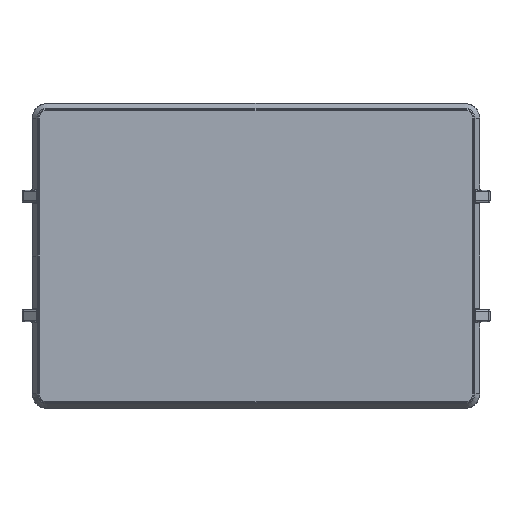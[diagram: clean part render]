
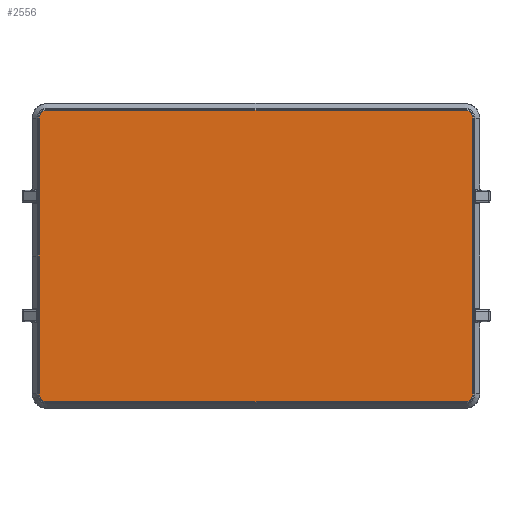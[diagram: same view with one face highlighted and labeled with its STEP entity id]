
A CAD part, front view. The second image highlights one B-rep face of the part: STEP entity #2556.
In plain terms, the highlighted planar face has unit normal (0, -1, 0).
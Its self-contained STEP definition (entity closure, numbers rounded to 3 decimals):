
#913 = VERTEX_POINT ( 'NONE', #1291 ) ;
#1052 = CARTESIAN_POINT ( 'NONE',  ( -91.334, -9., 0. ) ) ;
#1246 = CARTESIAN_POINT ( 'NONE',  ( -88., -9., 61.334 ) ) ;
#1269 = VERTEX_POINT ( 'NONE', #9640 ) ;
#1291 = CARTESIAN_POINT ( 'NONE',  ( -91.334, -9., 58. ) ) ;
#1363 = CARTESIAN_POINT ( 'NONE',  ( -91.334, -9., -58. ) ) ;
#1412 = CIRCLE ( 'NONE', #10245, 3.334 ) ;
#1462 = DIRECTION ( 'NONE',  ( 0., 0., 1. ) ) ;
#1566 = DIRECTION ( 'NONE',  ( 1., 0., 0. ) ) ;
#2072 = CARTESIAN_POINT ( 'NONE',  ( 88., -9., -61.334 ) ) ;
#2228 = CIRCLE ( 'NONE', #5989, 3.334 ) ;
#2233 = CARTESIAN_POINT ( 'NONE',  ( 91.334, -9., -58. ) ) ;
#2291 = VERTEX_POINT ( 'NONE', #10693 ) ;
#2411 = VECTOR ( 'NONE', #1566, 1000. ) ;
#2431 = CARTESIAN_POINT ( 'NONE',  ( -88., -9., 58. ) ) ;
#2556 = ADVANCED_FACE ( 'NONE', ( #12605 ), #9032, .F. ) ;
#2660 = ORIENTED_EDGE ( 'NONE', *, *, #4274, .T. ) ;
#2794 = DIRECTION ( 'NONE',  ( -1., 0., 0. ) ) ;
#2869 = DIRECTION ( 'NONE',  ( 0., 1., 0. ) ) ;
#3055 = DIRECTION ( 'NONE',  ( 0., 0., 1. ) ) ;
#3377 = ORIENTED_EDGE ( 'NONE', *, *, #13174, .T. ) ;
#3427 = AXIS2_PLACEMENT_3D ( 'NONE', #9977, #13086, #10039 ) ;
#3575 = VERTEX_POINT ( 'NONE', #1363 ) ;
#3642 = LINE ( 'NONE', #13382, #2411 ) ;
#4191 = CARTESIAN_POINT ( 'NONE',  ( 88., -9., 58. ) ) ;
#4274 = EDGE_CURVE ( 'NONE', #1269, #2291, #12744, .T. ) ;
#4536 = CARTESIAN_POINT ( 'NONE',  ( -91.334, -9., 58. ) ) ;
#5060 = LINE ( 'NONE', #9281, #10366 ) ;
#5325 = ORIENTED_EDGE ( 'NONE', *, *, #6525, .T. ) ;
#5599 = EDGE_LOOP ( 'NONE', ( #11587, #13539, #10956, #11828, #2660, #10989, #3377, #5325, #10167 ) ) ;
#5989 = AXIS2_PLACEMENT_3D ( 'NONE', #6212, #10414, #10480 ) ;
#6025 = EDGE_CURVE ( 'NONE', #913, #11886, #8954, .T. ) ;
#6212 = CARTESIAN_POINT ( 'NONE',  ( 88., -9., -58. ) ) ;
#6525 = EDGE_CURVE ( 'NONE', #6896, #913, #9133, .T. ) ;
#6546 = CIRCLE ( 'NONE', #3427, 3.334 ) ;
#6556 = DIRECTION ( 'NONE',  ( 0., -1., 0. ) ) ;
#6896 = VERTEX_POINT ( 'NONE', #1246 ) ;
#7114 = EDGE_CURVE ( 'NONE', #2291, #9526, #1412, .T. ) ;
#7480 = CARTESIAN_POINT ( 'NONE',  ( -88., -9., -61.334 ) ) ;
#8060 = LINE ( 'NONE', #12271, #11935 ) ;
#8203 = VECTOR ( 'NONE', #3055, 1000. ) ;
#8269 = EDGE_CURVE ( 'NONE', #3575, #12196, #6546, .T. ) ;
#8487 = VERTEX_POINT ( 'NONE', #2072 ) ;
#8655 = DIRECTION ( 'NONE',  ( 0., 0., -1. ) ) ;
#8939 = DIRECTION ( 'NONE',  ( 0., -1., 0. ) ) ;
#8954 = LINE ( 'NONE', #4536, #8982 ) ;
#8982 = VECTOR ( 'NONE', #9850, 1000. ) ;
#9032 = PLANE ( 'NONE',  #11619 ) ;
#9133 = CIRCLE ( 'NONE', #10451, 3.334 ) ;
#9234 = DIRECTION ( 'NONE',  ( 0., 0., 1. ) ) ;
#9281 = CARTESIAN_POINT ( 'NONE',  ( -91.334, -9., 0. ) ) ;
#9526 = VERTEX_POINT ( 'NONE', #10681 ) ;
#9581 = DIRECTION ( 'NONE',  ( 1., 0., 0. ) ) ;
#9640 = CARTESIAN_POINT ( 'NONE',  ( 91.334, -9., -58. ) ) ;
#9850 = DIRECTION ( 'NONE',  ( 0., 0., -1. ) ) ;
#9977 = CARTESIAN_POINT ( 'NONE',  ( -88., -9., -58. ) ) ;
#10039 = DIRECTION ( 'NONE',  ( -1., 0., 0. ) ) ;
#10167 = ORIENTED_EDGE ( 'NONE', *, *, #6025, .T. ) ;
#10245 = AXIS2_PLACEMENT_3D ( 'NONE', #4191, #6556, #9581 ) ;
#10366 = VECTOR ( 'NONE', #8655, 1000. ) ;
#10414 = DIRECTION ( 'NONE',  ( 0., -1., 0. ) ) ;
#10451 = AXIS2_PLACEMENT_3D ( 'NONE', #2431, #8939, #1462 ) ;
#10480 = DIRECTION ( 'NONE',  ( 0., 0., -1. ) ) ;
#10681 = CARTESIAN_POINT ( 'NONE',  ( 88., -9., 61.334 ) ) ;
#10693 = CARTESIAN_POINT ( 'NONE',  ( 91.334, -9., 58. ) ) ;
#10956 = ORIENTED_EDGE ( 'NONE', *, *, #11755, .T. ) ;
#10989 = ORIENTED_EDGE ( 'NONE', *, *, #7114, .T. ) ;
#11587 = ORIENTED_EDGE ( 'NONE', *, *, #12082, .T. ) ;
#11619 = AXIS2_PLACEMENT_3D ( 'NONE', #1052, #2869, #9234 ) ;
#11755 = EDGE_CURVE ( 'NONE', #12196, #8487, #3642, .T. ) ;
#11828 = ORIENTED_EDGE ( 'NONE', *, *, #12940, .T. ) ;
#11886 = VERTEX_POINT ( 'NONE', #12427 ) ;
#11935 = VECTOR ( 'NONE', #2794, 1000. ) ;
#12082 = EDGE_CURVE ( 'NONE', #11886, #3575, #5060, .T. ) ;
#12196 = VERTEX_POINT ( 'NONE', #7480 ) ;
#12271 = CARTESIAN_POINT ( 'NONE',  ( 88., -9., 61.334 ) ) ;
#12427 = CARTESIAN_POINT ( 'NONE',  ( -91.334, -9., 0. ) ) ;
#12605 = FACE_OUTER_BOUND ( 'NONE', #5599, .T. ) ;
#12744 = LINE ( 'NONE', #2233, #8203 ) ;
#12940 = EDGE_CURVE ( 'NONE', #8487, #1269, #2228, .T. ) ;
#13086 = DIRECTION ( 'NONE',  ( 0., -1., 0. ) ) ;
#13174 = EDGE_CURVE ( 'NONE', #9526, #6896, #8060, .T. ) ;
#13382 = CARTESIAN_POINT ( 'NONE',  ( -88., -9., -61.334 ) ) ;
#13539 = ORIENTED_EDGE ( 'NONE', *, *, #8269, .T. ) ;
